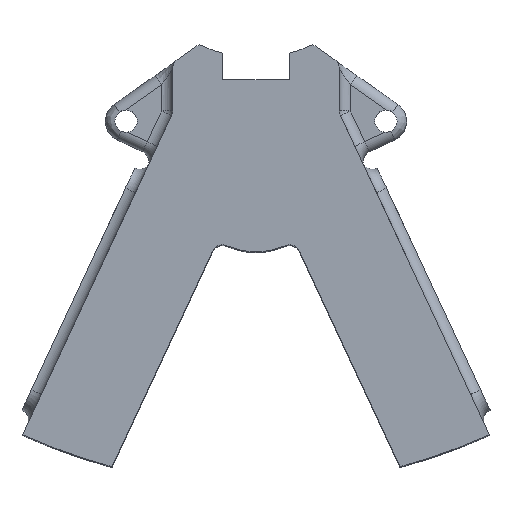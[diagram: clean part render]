
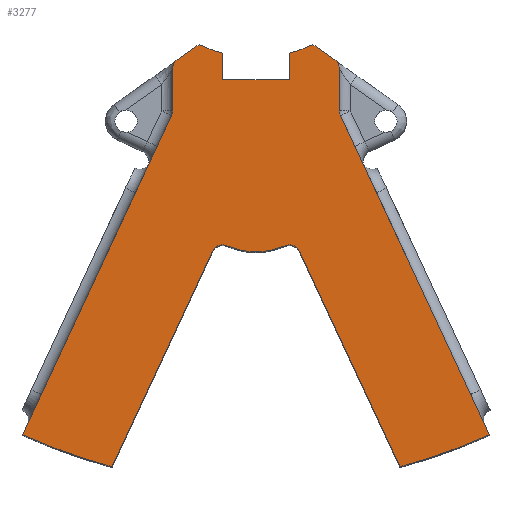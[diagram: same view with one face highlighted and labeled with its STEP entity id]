
A CAD part, top view. The second image highlights one B-rep face of the part: STEP entity #3277.
In plain terms, the highlighted planar face has unit normal (0, 0, 1).
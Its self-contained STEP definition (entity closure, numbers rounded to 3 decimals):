
#72=DIRECTION('',(-1.,0.,0.));
#73=VECTOR('',#72,6.);
#74=CARTESIAN_POINT('',(3.,-14.,22.));
#75=LINE('',#74,#73);
#88=DIRECTION('',(-0.423,-0.906,0.));
#89=VECTOR('',#88,21.367);
#90=CARTESIAN_POINT('',(-3.917,-29.447,22.));
#91=LINE('',#90,#89);
#92=DIRECTION('',(0.423,0.906,0.));
#93=VECTOR('',#92,31.684);
#94=CARTESIAN_POINT('',(-20.984,-45.934,22.));
#95=LINE('',#94,#93);
#96=DIRECTION('',(0.,1.,0.));
#97=VECTOR('',#96,3.758);
#98=CARTESIAN_POINT('',(-7.5,-16.796,22.));
#99=LINE('',#98,#97);
#100=CARTESIAN_POINT('',(-6.5,-13.038,22.));
#101=DIRECTION('',(0.,0.,-1.));
#102=DIRECTION('',(-1.,0.,0.));
#103=AXIS2_PLACEMENT_3D('',#100,#101,#102);
#105=DIRECTION('',(0.819,0.574,0.));
#106=VECTOR('',#105,2.383);
#107=CARTESIAN_POINT('',(-7.074,-12.219,22.));
#108=LINE('',#107,#106);
#109=CARTESIAN_POINT('',(0.,0.,22.));
#110=DIRECTION('',(0.,0.,1.));
#111=DIRECTION('',(-0.427,-0.904,0.));
#112=AXIS2_PLACEMENT_3D('',#109,#110,#111);
#114=DIRECTION('',(0.,-1.,0.));
#115=VECTOR('',#114,2.381);
#116=CARTESIAN_POINT('',(-3.,-11.619,22.));
#117=LINE('',#116,#115);
#118=DIRECTION('',(0.,-1.,0.));
#119=VECTOR('',#118,2.381);
#120=CARTESIAN_POINT('',(3.,-11.619,22.));
#121=LINE('',#120,#119);
#122=CARTESIAN_POINT('',(0.,0.,22.));
#123=DIRECTION('',(0.,0.,-1.));
#124=DIRECTION('',(0.427,-0.904,0.));
#125=AXIS2_PLACEMENT_3D('',#122,#123,#124);
#127=DIRECTION('',(-0.819,0.574,0.));
#128=VECTOR('',#127,2.383);
#129=CARTESIAN_POINT('',(7.074,-12.219,22.));
#130=LINE('',#129,#128);
#131=CARTESIAN_POINT('',(6.5,-13.038,22.));
#132=DIRECTION('',(0.,0.,1.));
#133=DIRECTION('',(1.,0.,0.));
#134=AXIS2_PLACEMENT_3D('',#131,#132,#133);
#136=DIRECTION('',(0.,1.,0.));
#137=VECTOR('',#136,3.758);
#138=CARTESIAN_POINT('',(7.5,-16.796,22.));
#139=LINE('',#138,#137);
#140=DIRECTION('',(-0.423,0.906,0.));
#141=VECTOR('',#140,31.684);
#142=CARTESIAN_POINT('',(20.984,-45.934,22.));
#143=LINE('',#142,#141);
#144=DIRECTION('',(0.423,-0.906,0.));
#145=VECTOR('',#144,21.367);
#146=CARTESIAN_POINT('',(3.917,-29.447,22.));
#147=LINE('',#146,#145);
#152=CARTESIAN_POINT('',(0.,-23.,22.));
#153=DIRECTION('',(0.,0.,1.));
#154=DIRECTION('',(-0.401,-0.916,0.));
#155=AXIS2_PLACEMENT_3D('',#152,#153,#154);
#422=CARTESIAN_POINT('',(0.,0.,22.));
#423=DIRECTION('',(0.,0.,-1.));
#424=DIRECTION('',(-0.256,-0.967,0.));
#425=AXIS2_PLACEMENT_3D('',#422,#423,#424);
#439=CARTESIAN_POINT('',(-3.011,-29.869,22.));
#440=DIRECTION('',(0.,0.,1.));
#441=DIRECTION('',(0.401,0.916,0.));
#442=AXIS2_PLACEMENT_3D('',#439,#440,#441);
#1217=CARTESIAN_POINT('',(-8.5,-16.796,22.));
#1218=DIRECTION('',(0.,0.,1.));
#1219=DIRECTION('',(0.906,-0.423,0.));
#1220=AXIS2_PLACEMENT_3D('',#1217,#1218,#1219);
#2051=CARTESIAN_POINT('',(8.5,-16.796,22.));
#2052=DIRECTION('',(0.,0.,-1.));
#2053=DIRECTION('',(-0.906,-0.423,0.));
#2054=AXIS2_PLACEMENT_3D('',#2051,#2052,#2053);
#2410=CARTESIAN_POINT('',(0.,0.,22.));
#2411=DIRECTION('',(0.,0.,1.));
#2412=DIRECTION('',(0.256,-0.967,0.));
#2413=AXIS2_PLACEMENT_3D('',#2410,#2411,#2412);
#2456=CARTESIAN_POINT('',(3.011,-29.869,22.));
#2457=DIRECTION('',(0.,0.,-1.));
#2458=DIRECTION('',(-0.401,0.916,0.));
#2459=AXIS2_PLACEMENT_3D('',#2456,#2457,#2458);
#2626=CARTESIAN_POINT('',(5.122,-10.852,22.));
#2627=CARTESIAN_POINT('',(3.,-11.619,22.));
#2628=VERTEX_POINT('',#2626);
#2629=VERTEX_POINT('',#2627);
#2630=CARTESIAN_POINT('',(3.,-14.,22.));
#2631=VERTEX_POINT('',#2630);
#2633=CARTESIAN_POINT('',(20.984,-45.934,22.));
#2635=VERTEX_POINT('',#2633);
#2636=CARTESIAN_POINT('',(12.947,-48.812,22.));
#2637=VERTEX_POINT('',#2636);
#2701=CARTESIAN_POINT('',(3.917,-29.447,22.));
#2703=VERTEX_POINT('',#2701);
#2705=CARTESIAN_POINT('',(2.609,-28.953,22.));
#2707=VERTEX_POINT('',#2705);
#2769=CARTESIAN_POINT('',(-5.122,-10.852,22.));
#2770=CARTESIAN_POINT('',(-3.,-11.619,22.));
#2771=VERTEX_POINT('',#2769);
#2772=VERTEX_POINT('',#2770);
#2773=CARTESIAN_POINT('',(-3.,-14.,22.));
#2774=VERTEX_POINT('',#2773);
#2776=CARTESIAN_POINT('',(-20.984,-45.934,22.));
#2778=VERTEX_POINT('',#2776);
#2779=CARTESIAN_POINT('',(-12.947,-48.812,22.));
#2780=VERTEX_POINT('',#2779);
#2844=CARTESIAN_POINT('',(-3.917,-29.447,22.));
#2846=VERTEX_POINT('',#2844);
#2848=CARTESIAN_POINT('',(-2.609,-28.953,22.));
#2850=VERTEX_POINT('',#2848);
#2992=CARTESIAN_POINT('',(7.5,-16.796,22.));
#2994=VERTEX_POINT('',#2992);
#2996=CARTESIAN_POINT('',(7.594,-17.218,22.));
#2998=VERTEX_POINT('',#2996);
#3004=CARTESIAN_POINT('',(7.5,-13.038,22.));
#3005=CARTESIAN_POINT('',(7.074,-12.219,22.));
#3006=VERTEX_POINT('',#3004);
#3007=VERTEX_POINT('',#3005);
#3104=CARTESIAN_POINT('',(-7.5,-16.796,22.));
#3106=VERTEX_POINT('',#3104);
#3108=CARTESIAN_POINT('',(-7.594,-17.218,22.));
#3110=VERTEX_POINT('',#3108);
#3116=CARTESIAN_POINT('',(-7.5,-13.038,22.));
#3117=CARTESIAN_POINT('',(-7.074,-12.219,22.));
#3118=VERTEX_POINT('',#3116);
#3119=VERTEX_POINT('',#3117);
#3227=CARTESIAN_POINT('',(0.,0.,22.));
#3228=DIRECTION('',(0.,0.,1.));
#3229=DIRECTION('',(1.,0.,0.));
#3230=AXIS2_PLACEMENT_3D('',#3227,#3228,#3229);
#3231=PLANE('',#3230);
#3233=ORIENTED_EDGE('',*,*,#3232,.F.);
#3235=ORIENTED_EDGE('',*,*,#3234,.T.);
#3237=ORIENTED_EDGE('',*,*,#3236,.T.);
#3239=ORIENTED_EDGE('',*,*,#3238,.T.);
#3241=ORIENTED_EDGE('',*,*,#3240,.T.);
#3243=ORIENTED_EDGE('',*,*,#3242,.T.);
#3245=ORIENTED_EDGE('',*,*,#3244,.T.);
#3247=ORIENTED_EDGE('',*,*,#3246,.T.);
#3249=ORIENTED_EDGE('',*,*,#3248,.T.);
#3251=ORIENTED_EDGE('',*,*,#3250,.T.);
#3253=ORIENTED_EDGE('',*,*,#3252,.T.);
#3254=ORIENTED_EDGE('',*,*,#3217,.F.);
#3256=ORIENTED_EDGE('',*,*,#3255,.F.);
#3258=ORIENTED_EDGE('',*,*,#3257,.F.);
#3260=ORIENTED_EDGE('',*,*,#3259,.F.);
#3262=ORIENTED_EDGE('',*,*,#3261,.F.);
#3264=ORIENTED_EDGE('',*,*,#3263,.F.);
#3266=ORIENTED_EDGE('',*,*,#3265,.F.);
#3268=ORIENTED_EDGE('',*,*,#3267,.F.);
#3270=ORIENTED_EDGE('',*,*,#3269,.F.);
#3272=ORIENTED_EDGE('',*,*,#3271,.F.);
#3274=ORIENTED_EDGE('',*,*,#3273,.F.);
#3275=EDGE_LOOP('',(#3233,#3235,#3237,#3239,#3241,#3243,#3245,#3247,#3249,#3251,
#3253,#3254,#3256,#3258,#3260,#3262,#3264,#3266,#3268,#3270,#3272,#3274));
#3276=FACE_OUTER_BOUND('',#3275,.F.);
#3277=ADVANCED_FACE('',(#3276),#3231,.T.);
#104=CIRCLE('',#103,1.);
#113=CIRCLE('',#112,12.);
#126=CIRCLE('',#125,12.);
#135=CIRCLE('',#134,1.);
#156=CIRCLE('',#155,6.5);
#426=CIRCLE('',#425,50.5);
#443=CIRCLE('',#442,1.);
#1221=CIRCLE('',#1220,1.);
#2055=CIRCLE('',#2054,1.);
#2414=CIRCLE('',#2413,50.5);
#2460=CIRCLE('',#2459,1.);
#3217=EDGE_CURVE('',#2631,#2774,#75,.T.);
#3232=EDGE_CURVE('',#2850,#2707,#156,.T.);
#3234=EDGE_CURVE('',#2850,#2846,#443,.T.);
#3236=EDGE_CURVE('',#2846,#2780,#91,.T.);
#3238=EDGE_CURVE('',#2780,#2778,#426,.T.);
#3240=EDGE_CURVE('',#2778,#3110,#95,.T.);
#3242=EDGE_CURVE('',#3110,#3106,#1221,.T.);
#3244=EDGE_CURVE('',#3106,#3118,#99,.T.);
#3246=EDGE_CURVE('',#3118,#3119,#104,.T.);
#3248=EDGE_CURVE('',#3119,#2771,#108,.T.);
#3250=EDGE_CURVE('',#2771,#2772,#113,.T.);
#3252=EDGE_CURVE('',#2772,#2774,#117,.T.);
#3255=EDGE_CURVE('',#2629,#2631,#121,.T.);
#3257=EDGE_CURVE('',#2628,#2629,#126,.T.);
#3259=EDGE_CURVE('',#3007,#2628,#130,.T.);
#3261=EDGE_CURVE('',#3006,#3007,#135,.T.);
#3263=EDGE_CURVE('',#2994,#3006,#139,.T.);
#3265=EDGE_CURVE('',#2998,#2994,#2055,.T.);
#3267=EDGE_CURVE('',#2635,#2998,#143,.T.);
#3269=EDGE_CURVE('',#2637,#2635,#2414,.T.);
#3271=EDGE_CURVE('',#2703,#2637,#147,.T.);
#3273=EDGE_CURVE('',#2707,#2703,#2460,.T.);
